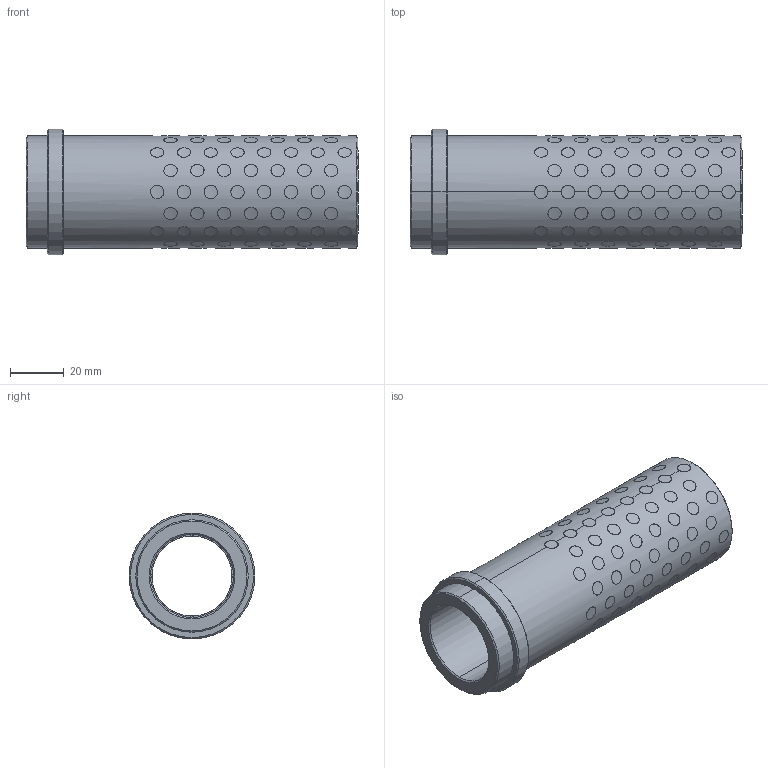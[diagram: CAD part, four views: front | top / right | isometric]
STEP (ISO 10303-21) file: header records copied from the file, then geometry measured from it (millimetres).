
FILE_DESCRIPTION((''),'2;1');
FILE_NAME('G31230116','2017-12-30T',('MANU'),(''),'PRO/ENGINEER BY PARAMETRIC TECHNOLOGY CORPORATION, 2012130','PRO/ENGINEER BY PARAMETRIC TECHNOLOGY CORPORATION, 2012130','');
FILE_SCHEMA(('CONFIG_CONTROL_DESIGN'));
Length unit declared in the file: millimetre
Products named in the file (1): G31230116
Bounding box: 124 x 47 x 47 mm (x, y, z)
Volume: 83757 mm3; surface area: 52640.1 mm2
Topology: 121 solids, 121 shells, 747 faces, 1590 edges, 1056 vertices
Faces by surface type: cylinder 730, cone 12, plane 5
Entity records: 37984 total; most frequent: CARTESIAN_POINT 23463, ORIENTED_EDGE 3180, DIRECTION 2092, EDGE_CURVE 1590, VERTEX_POINT 1056, B_SPLINE_CURVE_WITH_KNOTS 1024, EDGE_LOOP 960, AXIS2_PLACEMENT_3D 779
